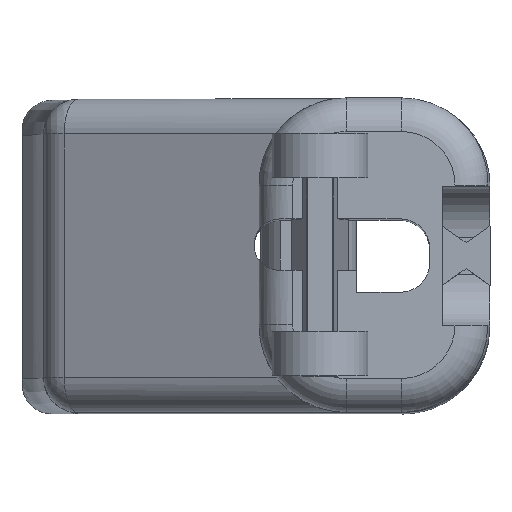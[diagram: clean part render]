
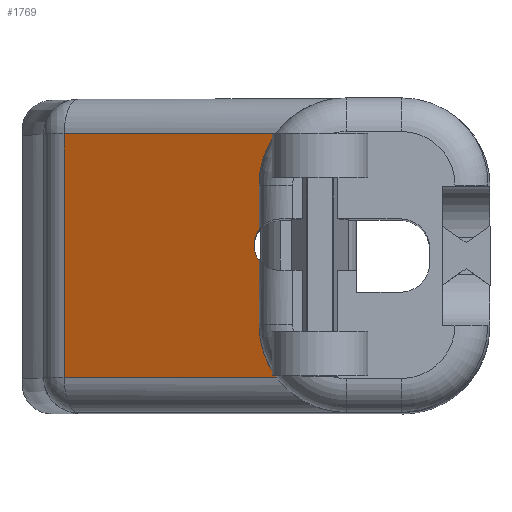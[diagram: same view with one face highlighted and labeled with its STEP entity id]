
A CAD part, top view. The second image highlights one B-rep face of the part: STEP entity #1769.
In plain terms, the highlighted planar face has unit normal (-0.412, 0, 0.911).
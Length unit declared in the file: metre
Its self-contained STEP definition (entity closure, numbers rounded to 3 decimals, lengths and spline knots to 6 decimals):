
#25=ELLIPSE('',#1886,0.001659,0.001512);
#26=ELLIPSE('',#1889,0.005608,0.005109);
#27=ELLIPSE('',#1893,0.005608,0.005109);
#53=PLANE('',#1934);
#482=ORIENTED_EDGE('',*,*,#826,.T.);
#483=ORIENTED_EDGE('',*,*,#846,.T.);
#484=ORIENTED_EDGE('',*,*,#884,.T.);
#485=ORIENTED_EDGE('',*,*,#902,.T.);
#486=ORIENTED_EDGE('',*,*,#893,.T.);
#487=ORIENTED_EDGE('',*,*,#850,.T.);
#488=ORIENTED_EDGE('',*,*,#832,.T.);
#489=ORIENTED_EDGE('',*,*,#841,.F.);
#826=EDGE_CURVE('',#1075,#1074,#1231,.T.);
#832=EDGE_CURVE('',#1081,#1080,#1237,.T.);
#841=EDGE_CURVE('',#1075,#1080,#25,.F.);
#846=EDGE_CURVE('',#1074,#1088,#26,.T.);
#850=EDGE_CURVE('',#1091,#1081,#27,.T.);
#884=EDGE_CURVE('',#1088,#1106,#1257,.F.);
#893=EDGE_CURVE('',#1112,#1091,#1262,.F.);
#902=EDGE_CURVE('',#1106,#1112,#1265,.T.);
#1074=VERTEX_POINT('',#2751);
#1075=VERTEX_POINT('',#2753);
#1080=VERTEX_POINT('',#2764);
#1081=VERTEX_POINT('',#2766);
#1088=VERTEX_POINT('',#2803);
#1091=VERTEX_POINT('',#2812);
#1106=VERTEX_POINT('',#2910);
#1112=VERTEX_POINT('',#2943);
#1231=LINE('',#2752,#1397);
#1237=LINE('',#2765,#1403);
#1257=LINE('',#2911,#1423);
#1262=LINE('',#2942,#1428);
#1265=LINE('',#2978,#1431);
#1397=VECTOR('',#2180,1.);
#1403=VECTOR('',#2188,1.);
#1423=VECTOR('',#2292,1.);
#1428=VECTOR('',#2311,1.);
#1431=VECTOR('',#2326,1.);
#1537=EDGE_LOOP('',(#482,#483,#484,#485,#486,#487,#488,#489));
#1643=FACE_BOUND('',#1537,.T.);
#1769=ADVANCED_FACE('',(#1643),#53,.F.);
#1886=AXIS2_PLACEMENT_3D('',#2785,#2205,#2206);
#1889=AXIS2_PLACEMENT_3D('',#2804,#2213,#2214);
#1893=AXIS2_PLACEMENT_3D('',#2811,#2222,#2223);
#1934=AXIS2_PLACEMENT_3D('',#2977,#2324,#2325);
#2180=DIRECTION('',(0.,1.,0.));
#2188=DIRECTION('',(0.,1.,0.));
#2205=DIRECTION('',(0.412,0.,-0.911));
#2206=DIRECTION('',(0.911,0.,0.412));
#2213=DIRECTION('',(0.412,0.,-0.911));
#2214=DIRECTION('',(-0.911,0.,-0.412));
#2222=DIRECTION('',(0.412,0.,-0.911));
#2223=DIRECTION('',(-0.911,0.,-0.412));
#2292=DIRECTION('',(0.911,0.,0.412));
#2311=DIRECTION('',(-0.911,0.,-0.412));
#2324=DIRECTION('',(0.412,0.,-0.911));
#2325=DIRECTION('',(-0.911,0.,-0.412));
#2326=DIRECTION('',(0.,-1.,0.));
#2751=CARTESIAN_POINT('',(0.020094,-0.044715,0.060806));
#2752=CARTESIAN_POINT('',(0.020094,-0.048811,0.060806));
#2753=CARTESIAN_POINT('',(0.020094,-0.047329,0.060806));
#2764=CARTESIAN_POINT('',(0.020094,-0.049118,0.060806));
#2765=CARTESIAN_POINT('',(0.020094,-0.048811,0.060806));
#2766=CARTESIAN_POINT('',(0.020094,-0.052907,0.060806));
#2785=CARTESIAN_POINT('',(0.021313,-0.048224,0.061357));
#2803=CARTESIAN_POINT('',(0.021074,-0.041707,0.061249));
#2804=CARTESIAN_POINT('',(0.025203,-0.044715,0.063117));
#2811=CARTESIAN_POINT('',(0.025203,-0.052907,0.063117));
#2812=CARTESIAN_POINT('',(0.02113,-0.05599,0.061274));
#2910=CARTESIAN_POINT('',(0.00868,-0.041707,0.055641));
#2911=CARTESIAN_POINT('',(0.01242,-0.041707,0.057334));
#2942=CARTESIAN_POINT('',(0.01242,-0.05599,0.057334));
#2943=CARTESIAN_POINT('',(0.00868,-0.05599,0.055641));
#2977=CARTESIAN_POINT('',(0.01242,-0.068461,0.057334));
#2978=CARTESIAN_POINT('',(0.00868,-0.05599,0.055641));
